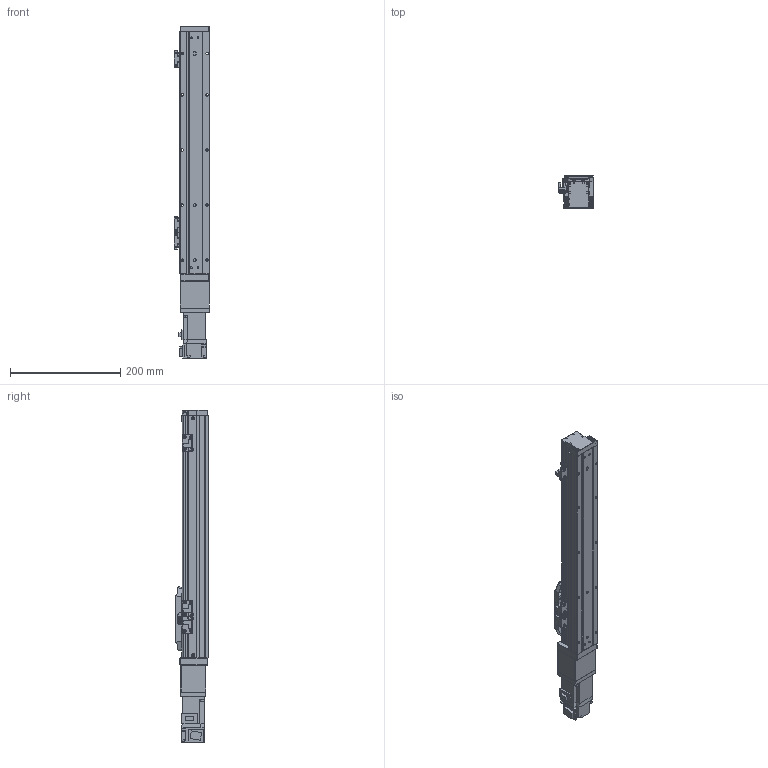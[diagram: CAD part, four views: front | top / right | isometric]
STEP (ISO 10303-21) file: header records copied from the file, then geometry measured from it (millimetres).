
FILE_DESCRIPTION (( 'STEP AP203' ), '1' );
FILE_NAME ('GTH5-300-BC-M10-C4.step', '2022-09-23T00:39:39', ( '微软用户' ), ( '微软中国' ), 'SwSTEP 2.0', 'SolidWorks 2020', '' );
FILE_SCHEMA (( 'CONFIG_CONTROL_DESIGN' ));
Length unit declared in the file: millimetre
Products named in the file (20): GBT 70.1-M4×16; GBT 70.1-M2.5×6; GTH5-300-BC-M10-C4; GTH50-003; GTH50-028; GTH50-006; GTH50-013; GTH50-022-1; GTH50-004; GTH50-023; CTHA60-027; GBT 70.3-M3℅6; GBT 70.1-M3℅6; CTHA60-013; BTH-M3X5X6; GBT96.1-2002 3×0.8; CTHA60-006-2_CTHA60-006-1; GTH50-001_300; GTH50-024; HG-KR13
Assembly tree (60 placements, depth 2):
  GTH5-300-BC-M10-C4
    GTH50-006
    GTH50-004
    GBT 70.3-M3℅6  x6
    BTH-M3X5X6  x8
    GTH50-001_300
    GBT 70.1-M4×16  x8
    GTH50-003
    GTH50-013
    GTH50-023  x3
    GBT 70.1-M3℅6  x12
    GBT96.1-2002 3×0.8  x6
    GTH50-024  x3
    GBT 70.1-M2.5×6  x2
    GTH50-028  x2
    GTH50-022-1
    CTHA60-027
    CTHA60-013
    CTHA60-006-2_CTHA60-006-1
    HG-KR13
Bounding box: 63.8 x 60 x 602.6 mm (x, y, z)
Volume: 1260316.7 mm3; surface area: 223943.3 mm2
Topology: 62 solids, 62 shells, 2041 faces, 4680 edges, 2854 vertices
Faces by surface type: plane 1105, cylinder 535, cone 235, torus 158, sphere 8
Entity records: 33811 total; most frequent: DIRECTION 5451, CARTESIAN_POINT 5343, ORIENTED_EDGE 5046, EDGE_CURVE 2523, AXIS2_PLACEMENT_3D 1868, LINE 1715, VECTOR 1715, VERTEX_POINT 1594
